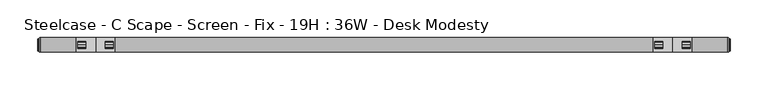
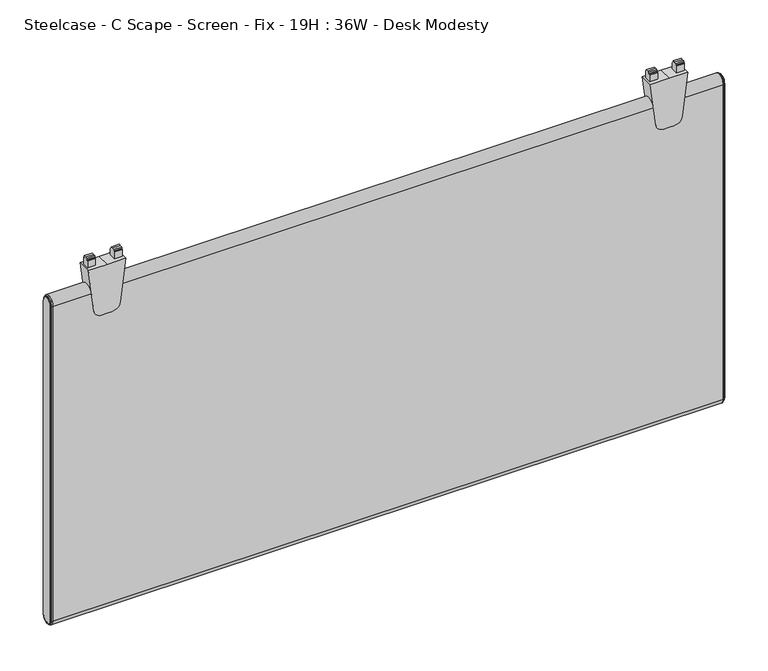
"""IFC4 building model written with IfcOpenShell, lengths in millimetres: furniture geometry, Steelcase - C Scape - Screen - Fix - 19H : 36W - Desk Modesty."""

from ifc_helpers import new_model, si_unit, point, frame, frame_2d, origin, place, context, project, spatial, polyline, circle_curve, ellipse_curve, trimmed, segment, composite_curve, outline, extrude, source, transform, mapped, element, save
from ifc_brep_helpers import plane_surface, cylinder_surface, revolved_surface, advanced_brep


def steelcase_c_scape_screen_fix_19h_36w_desk_modesty_a426bd1d(model_context):
    return source(origin(), model_context, "Body", "SolidModel", [
        extrude(outline(composite_curve([segment(polyline([(703.414888, 101.4730434), (703.414888, 76.2001674), (703.414888, 50.9272915), (643.0897579, 58.3341853)]), True, "CONTINUOUS"), segment(trimmed(circle_curve(frame_2d((644.4116282, 69.1001018)), 10.8467645), [point((643.0897579, 58.3341853))], [point((633.5648638, 69.1001018))], False, "CARTESIAN"), True, "CONTINUOUS"), segment(polyline([(633.5648638, 69.1001018), (633.5648638, 76.2001674), (633.5648638, 83.300233)]), True, "CONTINUOUS"), segment(trimmed(circle_curve(frame_2d((644.4116282, 83.300233)), 10.8467645), [point((633.5648638, 83.300233))], [point((643.0897579, 94.0661495))], False, "CARTESIAN"), True, "CONTINUOUS"), segment(polyline([(643.0897579, 94.0661495), (703.414888, 101.4730434)]), True, "CONTINUOUS")], self_intersect=False)), frame((0.0, -9.525, 0.0), z_axis=(0.0, 1.0, 0.0), x_axis=(0.0, 0.0, 1.0)), (0.0, 0.0, 1.0), 19.05),
        extrude(outline(polyline([(-4.5465975, 703.414888), (-4.5465975, 713.3208967), (-4.0139265, 714.2073252), (-2.9972008, 714.2073252), (-2.9972008, 716.4425812), (0.0, 716.534), (2.9972008, 716.4425812), (2.9972008, 714.2073252), (4.0139265, 714.2073252), (4.5465975, 713.3208967), (4.5465975, 703.414888), (0.0, 703.414888), (-4.5465975, 703.414888)])), frame((88.9267162, 0.0, 0.0), z_axis=(1.0, 0.0, 0.0), x_axis=(0.0, 1.0, 0.0)), (0.0, 0.0, 1.0), 10.7813187),
        extrude(outline(polyline([(-4.5465975, 703.414888), (-4.5465975, 713.3208967), (-4.0139265, 714.2073252), (-2.9972008, 714.2073252), (-2.9972008, 716.4425812), (0.0, 716.534), (2.9972008, 716.4425812), (2.9972008, 714.2073252), (4.0139265, 714.2073252), (4.5465975, 713.3208967), (4.5465975, 703.414888), (0.0, 703.414888), (-4.5465975, 703.414888)])), frame((52.6923, 0.0, 0.0), z_axis=(1.0, 0.0, 0.0), x_axis=(0.0, 1.0, 0.0)), (0.0, 0.0, 1.0), 10.7813187),
        extrude(outline(composite_curve([segment(polyline([(703.414888, 862.7107132), (703.414888, 837.4378372), (703.414888, 812.1649612), (643.0897579, 819.5718551)]), True, "CONTINUOUS"), segment(trimmed(circle_curve(frame_2d((644.4116282, 830.3377716)), 10.8467645), [point((643.0897579, 819.5718551))], [point((633.5648638, 830.3377716))], False, "CARTESIAN"), True, "CONTINUOUS"), segment(polyline([(633.5648638, 830.3377716), (633.5648638, 837.4378372), (633.5648638, 844.5379028)]), True, "CONTINUOUS"), segment(trimmed(circle_curve(frame_2d((644.4116282, 844.5379028)), 10.8467645), [point((633.5648638, 844.5379028))], [point((643.0897579, 855.3038193))], False, "CARTESIAN"), True, "CONTINUOUS"), segment(polyline([(643.0897579, 855.3038193), (703.414888, 862.7107132)]), True, "CONTINUOUS")], self_intersect=False)), frame((0.0, -9.525, 0.0), z_axis=(0.0, 1.0, 0.0), x_axis=(0.0, 0.0, 1.0)), (0.0, 0.0, 1.0), 19.05),
        extrude(outline(polyline([(-4.5465975, 703.414888), (-4.5465975, 713.3208967), (-4.0139265, 714.2073252), (-2.9972008, 714.2073252), (-2.9972008, 716.4425812), (0.0, 716.534), (2.9972008, 716.4425812), (2.9972008, 714.2073252), (4.0139265, 714.2073252), (4.5465975, 713.3208967), (4.5465975, 703.414888), (0.0, 703.414888), (-4.5465975, 703.414888)])), frame((850.164386, 0.0, 0.0), z_axis=(1.0, 0.0, 0.0), x_axis=(0.0, 1.0, 0.0)), (0.0, 0.0, 1.0), 10.7813187),
        extrude(outline(polyline([(-4.5465975, 703.414888), (-4.5465975, 713.3208967), (-4.0139265, 714.2073252), (-2.9972008, 714.2073252), (-2.9972008, 716.4425812), (0.0, 716.534), (2.9972008, 716.4425812), (2.9972008, 714.2073252), (4.0139265, 714.2073252), (4.5465975, 713.3208967), (4.5465975, 703.414888), (0.0, 703.414888), (-4.5465975, 703.414888)])), frame((813.9299698, 0.0, 0.0), z_axis=(1.0, 0.0, 0.0), x_axis=(0.0, 1.0, 0.0)), (0.0, 0.0, 1.0), 10.7813187),
        advanced_brep(
        [(910.8486613, -9.525, 668.909), (910.8486613, 9.525, 668.909), (910.8486613, 9.525, 218.059), (910.8486613, -9.525, 218.059), (913.6426613, 7.4929583, 668.909), (913.6426613, -7.4929583, 668.909), (913.6426613, -7.4929583, 218.059), (913.6426613, 7.4929583, 218.059), (913.1346545, -8.0009651, 668.909), (913.1346545, 8.0009651, 668.909), (911.8646613, 8.0009651, 668.909), (911.8646613, -8.0009651, 668.909), (911.8646613, -8.8204932, 668.909), (911.8646613, 8.8204932, 668.909), (911.8646613, -8.0009651, 218.059), (913.1346545, -8.0009651, 218.059), (911.8646613, -8.8204932, 218.059), (911.8646613, 8.0009651, 218.059), (913.1346545, 8.0009651, 218.059), (911.8646613, 8.8204932, 218.059)],
        [
            (0, 1, circle_curve(frame((910.8486613, 0.0, 668.909), z_axis=(-1.0, 0.0, 0.0), x_axis=(0.0, 1.0, 0.0)), 9.525)),
            (1, 2),
            (2, 3, circle_curve(frame((910.8486613, 0.0, 218.059), z_axis=(-1.0, 0.0, 0.0), x_axis=(0.0, -1.0, 0.0)), 9.525)),
            (3, 0),
            (4, 5, circle_curve(frame((913.6426613, 0.0, 668.909), z_axis=(1.0, 0.0, 0.0), x_axis=(0.0, 1.0, 0.0)), 7.4929583)),
            (5, 6),
            (6, 7, circle_curve(frame((913.6426613, 0.0, 218.059), z_axis=(1.0, 0.0, 0.0), x_axis=(0.0, -1.0, 0.0)), 7.4929583)),
            (7, 4),
            (8, 9, circle_curve(frame((913.1346545, 0.0, 668.909), z_axis=(-1.0, 0.0, 0.0), x_axis=(0.0, 1.0, 0.0)), 8.0009651)),
            (9, 10),
            (10, 11, circle_curve(frame((911.8646613, 0.0, 668.909), z_axis=(1.0, 0.0, 0.0), x_axis=(0.0, 1.0, 0.0)), 8.0009651)),
            (11, 8),
            (8, 5, circle_curve(frame((913.1346545, -7.4929583, 668.909), z_axis=(0.0, 0.0, 1.0), x_axis=(0.0, -1.0, 0.0)), 0.5080068)),
            (4, 9, circle_curve(frame((913.1346545, 7.4929583, 668.909), z_axis=(0.0, 0.0, 1.0), x_axis=(0.0, 1.0, 0.0)), 0.5080068)),
            (12, 13, circle_curve(frame((911.8646613, 0.0, 668.909), z_axis=(-1.0, 0.0, 0.0), x_axis=(0.0, 1.0, 0.0)), 8.8204932)),
            (13, 1, circle_curve(frame((910.7806211, 8.3420139, 668.909), z_axis=(0.0, 0.0, 1.0), x_axis=(0.0, 1.0, 0.0)), 1.1849411)),
            (0, 12, circle_curve(frame((910.7806211, -8.3420139, 668.909), z_axis=(0.0, 0.0, 1.0), x_axis=(0.0, -1.0, 0.0)), 1.1849411)),
            (11, 14),
            (14, 15),
            (15, 8),
            (15, 6, circle_curve(frame((913.1346545, -7.4929583, 218.059), z_axis=(0.0, 0.0, 1.0), x_axis=(0.0, -1.0, 0.0)), 0.5080068)),
            (3, 16, circle_curve(frame((910.7806211, -8.3420139, 218.059), z_axis=(0.0, 0.0, 1.0), x_axis=(0.0, -1.0, 0.0)), 1.1849411)),
            (16, 12),
            (14, 17, circle_curve(frame((911.8646613, 0.0, 218.059), z_axis=(1.0, 0.0, 0.0), x_axis=(0.0, -1.0, 0.0)), 8.0009651)),
            (17, 18),
            (18, 15, circle_curve(frame((913.1346545, 0.0, 218.059), z_axis=(-1.0, 0.0, 0.0), x_axis=(0.0, -1.0, 0.0)), 8.0009651)),
            (18, 7, circle_curve(frame((913.1346545, 7.4929583, 218.059), z_axis=(0.0, 0.0, -1.0), x_axis=(0.0, 1.0, 0.0)), 0.5080068)),
            (2, 19, circle_curve(frame((910.7806211, 8.3420139, 218.059), z_axis=(0.0, 0.0, -1.0), x_axis=(0.0, 1.0, 0.0)), 1.1849411)),
            (19, 16, circle_curve(frame((911.8646613, 0.0, 218.059), z_axis=(-1.0, 0.0, 0.0), x_axis=(0.0, -1.0, 0.0)), 8.8204932)),
            (9, 18),
            (17, 10),
            (13, 19),
        ],
        [
            plane_surface(frame((910.8486613, -6.3509705, 668.909), z_axis=(-1.0, 0.0, 0.0), x_axis=(0.0, 0.0, 1.0))),
            plane_surface(frame((913.6426613, -6.3509705, 668.909), z_axis=(1.0, 0.0, 0.0), x_axis=(0.0, 0.0, -1.0))),
            cylinder_surface(frame((910.8486613, 0.0, 668.909), z_axis=(1.0, 0.0, 0.0), x_axis=(0.0, 1.0, 0.0)), 8.0009651),
            revolved_surface(trimmed(ellipse_curve(frame((913.1346545, 7.4929583, 668.909), z_axis=(0.0, 0.0, -1.0), x_axis=(0.0, 1.0, 0.0)), 0.5080068, 0.5080068), [point((913.1346545, 8.0009651, 668.909))], [point((913.6426613, 7.4929583, 668.909))], True, "CARTESIAN"), (910.8486613, 0.0, 668.909), (1.0, 0.0, 0.0)),
            revolved_surface(trimmed(ellipse_curve(frame((910.7806211, 8.3420139, 668.909), z_axis=(0.0, 0.0, -1.0), x_axis=(0.0, 1.0, 0.0)), 1.1849411, 1.1849411), [point((910.8486613, 9.525, 668.909))], [point((911.8646613, 8.8204932, 668.909))], True, "CARTESIAN"), (910.8486613, 0.0, 668.909), (1.0, 0.0, 0.0)),
            plane_surface(frame((911.8646613, -8.0009651, 668.909), z_axis=(0.0, -1.0, 0.0), x_axis=(0.0, 0.0, -1.0))),
            cylinder_surface(frame((913.1346545, -7.4929583, 668.909), z_axis=(0.0, 0.0, 1.0), x_axis=(0.0, -1.0, 0.0)), 0.5080068),
            cylinder_surface(frame((910.7806211, -8.3420139, 668.909), z_axis=(0.0, 0.0, 1.0), x_axis=(0.0, -1.0, 0.0)), 1.1849411),
            cylinder_surface(frame((910.8486613, 0.0, 218.059), z_axis=(1.0, 0.0, 0.0), x_axis=(0.0, -1.0, 0.0)), 8.0009651),
            revolved_surface(trimmed(ellipse_curve(frame((913.1346545, -7.4929583, 218.059), z_axis=(0.0, 0.0, 1.0), x_axis=(0.0, -1.0, 0.0)), 0.5080068, 0.5080068), [point((913.1346545, -8.0009651, 218.059))], [point((913.6426613, -7.4929583, 218.059))], True, "CARTESIAN"), (910.8486613, 0.0, 218.059), (1.0, 0.0, 0.0)),
            revolved_surface(trimmed(ellipse_curve(frame((910.7806211, -8.3420139, 218.059), z_axis=(0.0, 0.0, 1.0), x_axis=(0.0, -1.0, 0.0)), 1.1849411, 1.1849411), [point((910.8486613, -9.525, 218.059))], [point((911.8646613, -8.8204932, 218.059))], True, "CARTESIAN"), (910.8486613, 0.0, 218.059), (1.0, 0.0, 0.0)),
            plane_surface(frame((911.8646613, 8.0009651, 218.059), z_axis=(0.0, 1.0, 0.0), x_axis=(0.0, 0.0, 1.0))),
            cylinder_surface(frame((913.1346545, 7.4929583, 218.059), z_axis=(0.0, 0.0, -1.0), x_axis=(0.0, 1.0, 0.0)), 0.5080068),
            cylinder_surface(frame((910.7806211, 8.3420139, 218.059), z_axis=(0.0, 0.0, -1.0), x_axis=(0.0, 1.0, 0.0)), 1.1849411),
            plane_surface(frame((911.8646613, 8.8204932, 218.059), z_axis=(1.0, 0.0, 0.0), x_axis=(0.0, 0.0, 1.0))),
        ],
        [
            (0, [[1, 2, 3, 4]]),
            (1, [[5, 6, 7, 8]]),
            (2, [[9, 10, 11, 12]]),
            (3, [[-9, 13, -5, 14]]),
            (4, [[15, 16, -1, 17]]),
            (5, [[-12, 18, 19, 20]]),
            (6, [[-13, -20, 21, -6]]),
            (7, [[-17, -4, 22, 23]]),
            (8, [[-19, 24, 25, 26]]),
            (9, [[-21, -26, 27, -7]]),
            (10, [[-22, -3, 28, 29]]),
            (11, [[-10, 30, -25, 31]]),
            (12, [[-14, -8, -27, -30]]),
            (13, [[-16, 32, -28, -2]]),
            (14, [[-15, -23, -29, -32], [-11, -31, -24, -18]]),
        ],
    ),
        advanced_brep(
        [(2.7940155, 9.525, 668.909), (2.7940155, -9.525, 668.909), (2.7940155, -9.525, 218.059), (2.7940155, 9.525, 218.059), (0.0, -7.4929583, 668.909), (0.0, 7.4929583, 668.909), (0.0, 7.4929583, 218.059), (0.0, -7.4929583, 218.059), (1.778, 8.8204932, 668.909), (1.778, -8.8204932, 668.909), (0.5080068, -8.0009651, 668.909), (0.5080068, 8.0009651, 668.909), (1.778, -8.0009651, 668.909), (1.778, 8.0009651, 668.909), (1.778, -8.8204932, 218.059), (0.5080068, -8.0009651, 218.059), (1.778, -8.0009651, 218.059), (1.778, 8.8204932, 218.059), (0.5080068, 8.0009651, 218.059), (1.778, 8.0009651, 218.059)],
        [
            (0, 1, circle_curve(frame((2.7940155, 0.0, 668.909), z_axis=(1.0, 0.0, 0.0), x_axis=(0.0, 1.0, 0.0)), 9.525)),
            (1, 2),
            (2, 3, circle_curve(frame((2.7940155, 0.0, 218.059), z_axis=(1.0, 0.0, 0.0), x_axis=(0.0, -1.0, 0.0)), 9.525)),
            (3, 0),
            (4, 5, circle_curve(frame((0.0, 0.0, 668.909), z_axis=(-1.0, 0.0, 0.0), x_axis=(0.0, 1.0, 0.0)), 7.4929583)),
            (5, 6),
            (6, 7, circle_curve(frame((0.0, 0.0, 218.059), z_axis=(-1.0, 0.0, 0.0), x_axis=(0.0, -1.0, 0.0)), 7.4929583)),
            (7, 4),
            (0, 8, circle_curve(frame((2.8620402, 8.3420139, 668.909), z_axis=(0.0, 0.0, 1.0), x_axis=(0.0, -1.0, 0.0)), 1.1849411)),
            (8, 9, circle_curve(frame((1.778, 0.0, 668.909), z_axis=(1.0, 0.0, 0.0), x_axis=(0.0, 1.0, 0.0)), 8.8204932)),
            (9, 1, circle_curve(frame((2.8620402, -8.3420139, 668.909), z_axis=(0.0, 0.0, 1.0), x_axis=(0.0, 1.0, 0.0)), 1.1849411)),
            (10, 11, circle_curve(frame((0.5080068, 0.0, 668.909), z_axis=(-1.0, 0.0, 0.0), x_axis=(0.0, 1.0, 0.0)), 8.0009651)),
            (11, 5, circle_curve(frame((0.5080068, 7.4929583, 668.909), z_axis=(0.0, 0.0, 1.0), x_axis=(0.0, -1.0, 0.0)), 0.5080068)),
            (4, 10, circle_curve(frame((0.5080068, -7.4929583, 668.909), z_axis=(0.0, 0.0, 1.0), x_axis=(0.0, 1.0, 0.0)), 0.5080068)),
            (10, 12),
            (12, 13, circle_curve(frame((1.778, 0.0, 668.909), z_axis=(-1.0, 0.0, 0.0), x_axis=(0.0, 1.0, 0.0)), 8.0009651)),
            (13, 11),
            (9, 14),
            (14, 2, circle_curve(frame((2.8620402, -8.3420139, 218.059), z_axis=(0.0, 0.0, 1.0), x_axis=(0.0, 1.0, 0.0)), 1.1849411)),
            (7, 15, circle_curve(frame((0.5080068, -7.4929583, 218.059), z_axis=(0.0, 0.0, 1.0), x_axis=(0.0, 1.0, 0.0)), 0.5080068)),
            (15, 10),
            (15, 16),
            (16, 12),
            (14, 17, circle_curve(frame((1.778, 0.0, 218.059), z_axis=(1.0, 0.0, 0.0), x_axis=(0.0, -1.0, 0.0)), 8.8204932)),
            (17, 3, circle_curve(frame((2.8620402, 8.3420139, 218.059), z_axis=(0.0, 0.0, -1.0), x_axis=(0.0, -1.0, 0.0)), 1.1849411)),
            (6, 18, circle_curve(frame((0.5080068, 7.4929583, 218.059), z_axis=(0.0, 0.0, -1.0), x_axis=(0.0, -1.0, 0.0)), 0.5080068)),
            (18, 15, circle_curve(frame((0.5080068, 0.0, 218.059), z_axis=(-1.0, 0.0, 0.0), x_axis=(0.0, -1.0, 0.0)), 8.0009651)),
            (18, 19),
            (19, 16, circle_curve(frame((1.778, 0.0, 218.059), z_axis=(-1.0, 0.0, 0.0), x_axis=(0.0, -1.0, 0.0)), 8.0009651)),
            (8, 17),
            (19, 13),
            (11, 18),
        ],
        [
            plane_surface(frame((2.7940155, -6.3509705, 668.909), z_axis=(1.0, 0.0, 0.0), x_axis=(0.0, 0.0, -1.0))),
            plane_surface(frame((0.0, -6.3509705, 668.909), z_axis=(-1.0, 0.0, 0.0), x_axis=(0.0, 0.0, 1.0))),
            revolved_surface(trimmed(ellipse_curve(frame((2.8620402, 8.3420139, 668.909), z_axis=(0.0, 0.0, -1.0), x_axis=(0.0, -1.0, 0.0)), 1.1849411, 1.1849411), [point((1.778, 8.8204932, 668.909))], [point((2.794, 9.525, 668.909))], True, "CARTESIAN"), (2.794, 0.0, 668.909), (1.0, 0.0, 0.0)),
            revolved_surface(trimmed(ellipse_curve(frame((0.5080068, 7.4929583, 668.909), z_axis=(0.0, 0.0, -1.0), x_axis=(0.0, -1.0, 0.0)), 0.5080068, 0.5080068), [point((0.0, 7.4929583, 668.909))], [point((0.5080068, 8.0009651, 668.909))], True, "CARTESIAN"), (2.794, 0.0, 668.909), (1.0, 0.0, 0.0)),
            cylinder_surface(frame((2.794, 0.0, 668.909), z_axis=(1.0, 0.0, 0.0), x_axis=(0.0, 1.0, 0.0)), 8.0009651),
            cylinder_surface(frame((2.8620402, -8.3420139, 668.909), z_axis=(0.0, 0.0, 1.0), x_axis=(0.0, 1.0, 0.0)), 1.1849411),
            cylinder_surface(frame((0.5080068, -7.4929583, 668.909), z_axis=(0.0, 0.0, 1.0), x_axis=(0.0, 1.0, 0.0)), 0.5080068),
            plane_surface(frame((0.5080068, -8.0009651, 668.909), z_axis=(0.0, -1.0, 0.0), x_axis=(0.0, 0.0, -1.0))),
            revolved_surface(trimmed(ellipse_curve(frame((2.8620402, -8.3420139, 218.059), z_axis=(0.0, 0.0, 1.0), x_axis=(0.0, 1.0, 0.0)), 1.1849411, 1.1849411), [point((1.778, -8.8204932, 218.059))], [point((2.794, -9.525, 218.059))], True, "CARTESIAN"), (2.794, 0.0, 218.059), (1.0, 0.0, 0.0)),
            revolved_surface(trimmed(ellipse_curve(frame((0.5080068, -7.4929583, 218.059), z_axis=(0.0, 0.0, 1.0), x_axis=(0.0, 1.0, 0.0)), 0.5080068, 0.5080068), [point((0.0, -7.4929583, 218.059))], [point((0.5080068, -8.0009651, 218.059))], True, "CARTESIAN"), (2.794, 0.0, 218.059), (1.0, 0.0, 0.0)),
            cylinder_surface(frame((2.794, 0.0, 218.059), z_axis=(1.0, 0.0, 0.0), x_axis=(0.0, -1.0, 0.0)), 8.0009651),
            plane_surface(frame((1.778, 8.0009651, 218.059), z_axis=(-1.0, 0.0, 0.0), x_axis=(0.0, 0.0, 1.0))),
            cylinder_surface(frame((2.8620402, 8.3420139, 218.059), z_axis=(0.0, 0.0, -1.0), x_axis=(0.0, -1.0, 0.0)), 1.1849411),
            cylinder_surface(frame((0.5080068, 7.4929583, 218.059), z_axis=(0.0, 0.0, -1.0), x_axis=(0.0, -1.0, 0.0)), 0.5080068),
            plane_surface(frame((0.5080068, 8.0009651, 218.059), z_axis=(0.0, 1.0, 0.0), x_axis=(0.0, 0.0, 1.0))),
        ],
        [
            (0, [[1, 2, 3, 4]]),
            (1, [[5, 6, 7, 8]]),
            (2, [[-1, 9, 10, 11]]),
            (3, [[12, 13, -5, 14]]),
            (4, [[-12, 15, 16, 17]]),
            (5, [[-11, 18, 19, -2]]),
            (6, [[-14, -8, 20, 21]]),
            (7, [[-15, -21, 22, 23]]),
            (8, [[-19, 24, 25, -3]]),
            (9, [[-20, -7, 26, 27]]),
            (10, [[-22, -27, 28, 29]]),
            (11, [[-10, 30, -24, -18], [-16, -23, -29, 31]]),
            (12, [[-9, -4, -25, -30]]),
            (13, [[-13, 32, -26, -6]]),
            (14, [[-17, -31, -28, -32]]),
        ],
    ),
        extrude(outline(composite_curve([segment(trimmed(circle_curve(frame_2d((0.0, 668.909)), 9.525), [point((-9.525, 668.909))], [point((9.525, 668.909))], False, "CARTESIAN"), True, "CONTINUOUS"), segment(polyline([(9.525, 668.909), (9.525, 218.059)]), True, "CONTINUOUS"), segment(trimmed(circle_curve(frame_2d((0.0, 218.059)), 9.525), [point((9.525, 218.059))], [point((-9.525, 218.059))], False, "CARTESIAN"), True, "CONTINUOUS"), segment(polyline([(-9.525, 218.059), (-9.525, 668.909)]), True, "CONTINUOUS")], self_intersect=False)), frame((2.794, 0.0, 0.0), z_axis=(1.0, 0.0, 0.0), x_axis=(0.0, 1.0, 0.0)), (0.0, 0.0, 1.0), 908.0546613),
    ])


if __name__ == "__main__":
    model = new_model("IFC4")
    model_context = context("Model", 3, world=origin())
    ifc_project = project(units=[si_unit("LENGTHUNIT", "METRE", prefix="MILLI")], contexts=[model_context])
    site = spatial("IfcSite", under=ifc_project)
    building = spatial("IfcBuilding", under=site)
    placement = place(None, origin())
    steelcase_c_scape_screen_fix_19h_36w_desk_modesty_shape = steelcase_c_scape_screen_fix_19h_36w_desk_modesty_a426bd1d(model_context)
    element("IfcFurniture", 1, ObjectType="Steelcase - C Scape - Screen - Fix - 19H : 36W - Desk Modesty", at=placement, inside=building, context=model_context, shape_type="MappedRepresentation", body=[
        mapped(steelcase_c_scape_screen_fix_19h_36w_desk_modesty_shape, transform((0.0, 0.0, 0.0), x_axis=(1.0, 0.0, 0.0), y_axis=(0.0, 1.0, 0.0), z_axis=(0.0, 0.0, 1.0))),
    ])
    save(model, "model.ifc")
